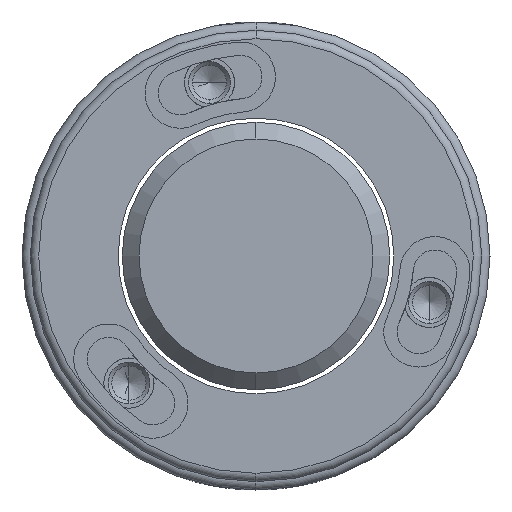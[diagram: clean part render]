
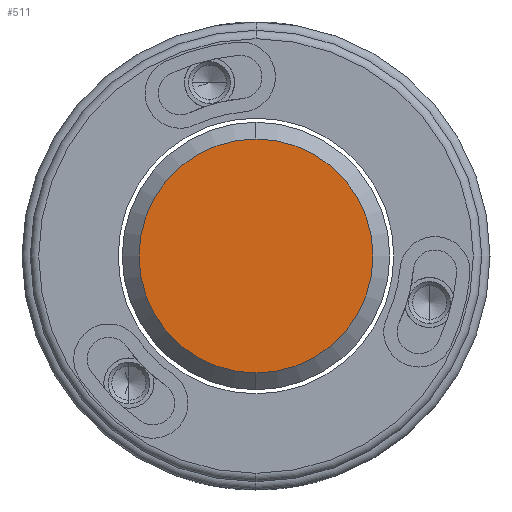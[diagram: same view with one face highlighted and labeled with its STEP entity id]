
A CAD part, left-side view. The second image highlights one B-rep face of the part: STEP entity #511.
In plain terms, the highlighted planar face has unit normal (-1, 0, 0).
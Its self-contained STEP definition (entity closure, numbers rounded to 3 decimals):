
#390 = DIRECTION ( 'NONE',  ( 0., 0., 1. ) ) ;
#511 = ADVANCED_FACE ( 'NONE', ( #5780 ), #2484, .T. ) ;
#705 = AXIS2_PLACEMENT_3D ( 'NONE', #1805, #984, #1354 ) ;
#731 = CARTESIAN_POINT ( 'NONE',  ( -10., 0., 0. ) ) ;
#959 = CARTESIAN_POINT ( 'NONE',  ( -10., 0., -7. ) ) ;
#984 = DIRECTION ( 'NONE',  ( -1., 0., 0. ) ) ;
#1111 = ORIENTED_EDGE ( 'NONE', *, *, #3851, .T. ) ;
#1265 = DIRECTION ( 'NONE',  ( -1., 0., 0. ) ) ;
#1354 = DIRECTION ( 'NONE',  ( 0., 0., 1. ) ) ;
#1805 = CARTESIAN_POINT ( 'NONE',  ( -10., 0., 0. ) ) ;
#1886 = CIRCLE ( 'NONE', #4492, 7. ) ;
#2379 = EDGE_CURVE ( 'NONE', #4677, #3737, #5130, .T. ) ;
#2484 = PLANE ( 'NONE',  #5394 ) ;
#3507 = ORIENTED_EDGE ( 'NONE', *, *, #2379, .T. ) ;
#3737 = VERTEX_POINT ( 'NONE', #959 ) ;
#3851 = EDGE_CURVE ( 'NONE', #3737, #4677, #1886, .T. ) ;
#3908 = DIRECTION ( 'NONE',  ( -1., 0., 0. ) ) ;
#4492 = AXIS2_PLACEMENT_3D ( 'NONE', #5708, #1265, #390 ) ;
#4677 = VERTEX_POINT ( 'NONE', #5578 ) ;
#5065 = EDGE_LOOP ( 'NONE', ( #1111, #3507 ) ) ;
#5130 = CIRCLE ( 'NONE', #705, 7. ) ;
#5394 = AXIS2_PLACEMENT_3D ( 'NONE', #731, #3908, #5637 ) ;
#5578 = CARTESIAN_POINT ( 'NONE',  ( -10., 0., 7. ) ) ;
#5637 = DIRECTION ( 'NONE',  ( 0., 0., 1. ) ) ;
#5708 = CARTESIAN_POINT ( 'NONE',  ( -10., 0., 0. ) ) ;
#5780 = FACE_OUTER_BOUND ( 'NONE', #5065, .T. ) ;
